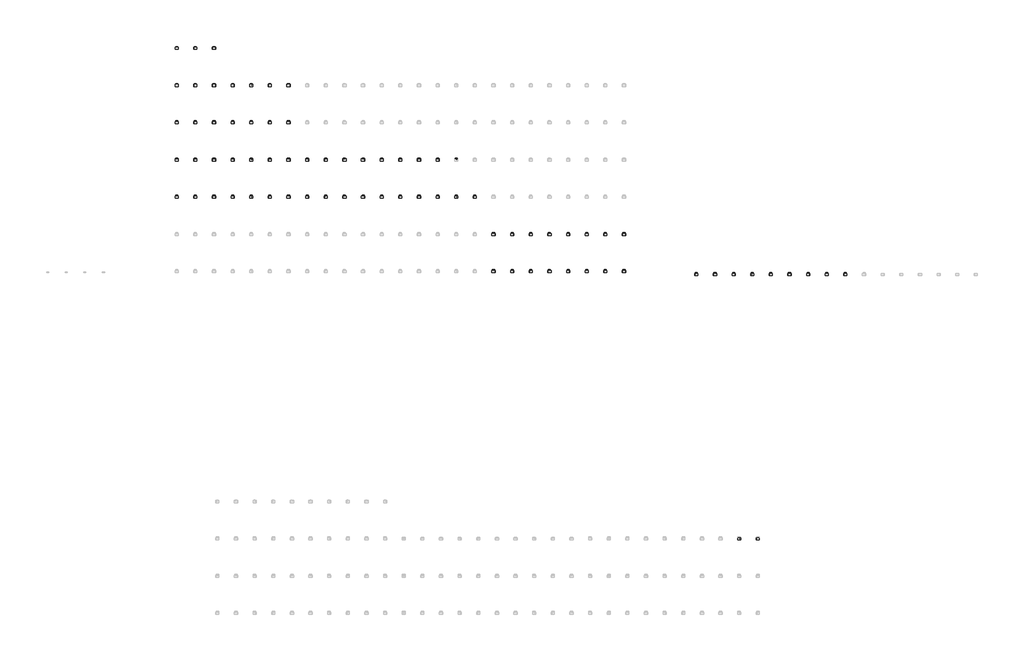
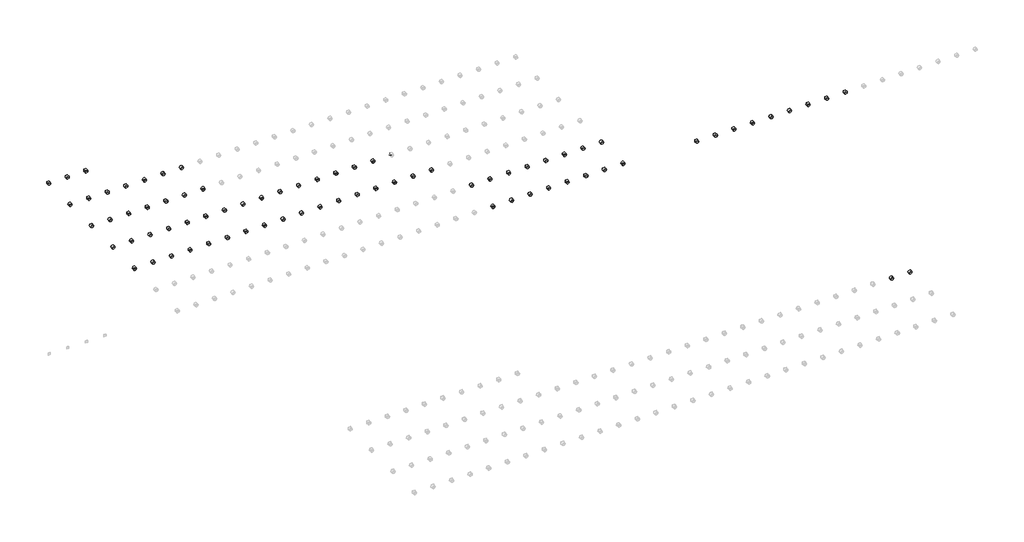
# One storey, part 6 of 18: 76 cable carrier fittings, 75 proxies.
"""IFC4 building model written with IfcOpenShell, lengths in millimetres."""

from ifc_helpers import new_model, si_unit, origin, place, context, project, spatial, transform, mapped, element, save
from components import electrical_fixtures_0646ccb8, electrical_fixtures_40101430, electrical_fixtures_18ec57b5, electrical_fixtures_af1ea3f6, electrical_fixtures_23d46810, electrical_fixtures_6e65c7f1, electrical_fixtures_4662bf55, cable_carrier_fitting_a64d4eba

model = new_model("IFC4")

# Units and contexts
model_context = context("Model", 3, world=origin())
ifc_project = project(units=[si_unit("LENGTHUNIT", "METRE", prefix="MILLI")], contexts=[model_context])

# Site, building, storey
site = spatial("IfcSite", under=ifc_project)
building = spatial("IfcBuilding", under=site)
storey = spatial("IfcBuildingStorey", under=building, Name="Этаж 01", Elevation=0.0)

# Proxies
placement = place(None, origin())
electrical_fixtures_shape = electrical_fixtures_0646ccb8(model_context)
element("IfcBuildingElementProxy", 1, Name="IEK_Skandy_Механизм выключателя : ВК1_SK-V14S", ObjectType="IEK_Skandy_Механизм выключателя : ВК1_SK-V14S", at=placement, inside=storey, context=model_context, shape_type="MappedRepresentation", body=[
    mapped(electrical_fixtures_shape, transform((24188.7290788, -8860.0, 0.0), x_axis=(1.0, 0.0, 0.0), y_axis=(0.0, 1.0, 0.0), z_axis=(0.0, 0.0, 1.0))),
])
element("IfcBuildingElementProxy", 2, Name="IEK_Skandy_Механизм выключателя : ВК1_SK-V14Sa", ObjectType="IEK_Skandy_Механизм выключателя : ВК1_SK-V14Sa", at=placement, inside=storey, context=model_context, shape_type="MappedRepresentation", body=[
    mapped(electrical_fixtures_shape, transform((24588.7290788, -8860.0, 0.0), x_axis=(1.0, 0.0, 0.0), y_axis=(0.0, 1.0, 0.0), z_axis=(0.0, 0.0, 1.0))),
])
element("IfcBuildingElementProxy", 3, Name="IEK_Skandy_Механизм выключателя : ВК1_SK-V14Sh", ObjectType="IEK_Skandy_Механизм выключателя : ВК1_SK-V14Sh", at=placement, inside=storey, context=model_context, shape_type="MappedRepresentation", body=[
    mapped(electrical_fixtures_shape, transform((24988.7290788, -8860.0, 0.0), x_axis=(1.0, 0.0, 0.0), y_axis=(0.0, 1.0, 0.0), z_axis=(0.0, 0.0, 1.0))),
])
element("IfcBuildingElementProxy", 4, Name="IEK_Skandy_Механизм выключателя : ВК1_SK-V14T", ObjectType="IEK_Skandy_Механизм выключателя : ВК1_SK-V14T", at=placement, inside=storey, context=model_context, shape_type="MappedRepresentation", body=[
    mapped(electrical_fixtures_shape, transform((25388.7290788, -8860.0, 0.0), x_axis=(1.0, 0.0, 0.0), y_axis=(0.0, 1.0, 0.0), z_axis=(0.0, 0.0, 1.0))),
])
element("IfcBuildingElementProxy", 5, Name="IEK_Skandy_Механизм выключателя : ВК1_SK-V14W", ObjectType="IEK_Skandy_Механизм выключателя : ВК1_SK-V14W", at=placement, inside=storey, context=model_context, shape_type="MappedRepresentation", body=[
    mapped(electrical_fixtures_shape, transform((25788.7290788, -8860.0, 0.0), x_axis=(1.0, 0.0, 0.0), y_axis=(0.0, 1.0, 0.0), z_axis=(0.0, 0.0, 1.0))),
])
element("IfcBuildingElementProxy", 6, Name="IEK_Skandy_Механизм выключателя : ВП1_SK-V03B", ObjectType="IEK_Skandy_Механизм выключателя : ВП1_SK-V03B", at=placement, inside=storey, context=model_context, shape_type="MappedRepresentation", body=[
    mapped(electrical_fixtures_shape, transform((26188.7290788, -8860.0, 0.0), x_axis=(1.0, 0.0, 0.0), y_axis=(0.0, 1.0, 0.0), z_axis=(0.0, 0.0, 1.0))),
])
element("IfcBuildingElementProxy", 7, Name="IEK_Skandy_Механизм выключателя : ВП1_SK-V03Bl", ObjectType="IEK_Skandy_Механизм выключателя : ВП1_SK-V03Bl", at=placement, inside=storey, context=model_context, shape_type="MappedRepresentation", body=[
    mapped(electrical_fixtures_shape, transform((26588.7290788, -8860.0, 0.0), x_axis=(1.0, 0.0, 0.0), y_axis=(0.0, 1.0, 0.0), z_axis=(0.0, 0.0, 1.0))),
])
element("IfcBuildingElementProxy", 8, Name="IEK_Skandy_Механизм выключателя : ВП1_SK-V03G", ObjectType="IEK_Skandy_Механизм выключателя : ВП1_SK-V03G", at=placement, inside=storey, context=model_context, shape_type="MappedRepresentation", body=[
    mapped(electrical_fixtures_shape, transform((26988.7290788, -8860.0, 0.0), x_axis=(1.0, 0.0, 0.0), y_axis=(0.0, 1.0, 0.0), z_axis=(0.0, 0.0, 1.0))),
])
element("IfcBuildingElementProxy", 9, Name="IEK_Skandy_Механизм выключателя : ВПр1_SK-V02T", ObjectType="IEK_Skandy_Механизм выключателя : ВПр1_SK-V02T", at=placement, inside=storey, context=model_context, shape_type="MappedRepresentation", body=[
    mapped(electrical_fixtures_shape, transform((24188.7290788, -8060.0, 0.0), x_axis=(1.0, 0.0, 0.0), y_axis=(0.0, 1.0, 0.0), z_axis=(0.0, 0.0, 1.0))),
])
element("IfcBuildingElementProxy", 10, Name="IEK_Skandy_Механизм выключателя : ВПр1_SK-V02W", ObjectType="IEK_Skandy_Механизм выключателя : ВПр1_SK-V02W", at=placement, inside=storey, context=model_context, shape_type="MappedRepresentation", body=[
    mapped(electrical_fixtures_shape, transform((24588.7290788, -8060.0, 0.0), x_axis=(1.0, 0.0, 0.0), y_axis=(0.0, 1.0, 0.0), z_axis=(0.0, 0.0, 1.0))),
])
electrical_fixtures_2_shape = electrical_fixtures_40101430(model_context)
element("IfcBuildingElementProxy", 11, Name="IEK_Skandy_Механизм выключателя : ВПр1 И_SK-V08B", ObjectType="IEK_Skandy_Механизм выключателя : ВПр1 И_SK-V08B", at=placement, inside=storey, context=model_context, shape_type="MappedRepresentation", body=[
    mapped(electrical_fixtures_2_shape, transform((24988.7290788, -8060.0, 0.0), x_axis=(1.0, 0.0, 0.0), y_axis=(0.0, 1.0, 0.0), z_axis=(0.0, 0.0, 1.0))),
])
element("IfcBuildingElementProxy", 12, Name="IEK_Skandy_Механизм выключателя : ВПр1 И_SK-V08Bl", ObjectType="IEK_Skandy_Механизм выключателя : ВПр1 И_SK-V08Bl", at=placement, inside=storey, context=model_context, shape_type="MappedRepresentation", body=[
    mapped(electrical_fixtures_2_shape, transform((25388.7290788, -8060.0, 0.0), x_axis=(1.0, 0.0, 0.0), y_axis=(0.0, 1.0, 0.0), z_axis=(0.0, 0.0, 1.0))),
])
element("IfcBuildingElementProxy", 13, Name="IEK_Skandy_Механизм выключателя : ВПр1 И_SK-V08G", ObjectType="IEK_Skandy_Механизм выключателя : ВПр1 И_SK-V08G", at=placement, inside=storey, context=model_context, shape_type="MappedRepresentation", body=[
    mapped(electrical_fixtures_2_shape, transform((25788.7290788, -8060.0, 0.0), x_axis=(1.0, 0.0, 0.0), y_axis=(0.0, 1.0, 0.0), z_axis=(0.0, 0.0, 1.0))),
])
element("IfcBuildingElementProxy", 14, Name="IEK_Skandy_Механизм выключателя : ВПр1 И_SK-V08Gr", ObjectType="IEK_Skandy_Механизм выключателя : ВПр1 И_SK-V08Gr", at=placement, inside=storey, context=model_context, shape_type="MappedRepresentation", body=[
    mapped(electrical_fixtures_2_shape, transform((26188.7290788, -8060.0, 0.0), x_axis=(1.0, 0.0, 0.0), y_axis=(0.0, 1.0, 0.0), z_axis=(0.0, 0.0, 1.0))),
])
element("IfcBuildingElementProxy", 15, Name="IEK_Skandy_Механизм выключателя : ВПр1 И_SK-V08M", ObjectType="IEK_Skandy_Механизм выключателя : ВПр1 И_SK-V08M", at=placement, inside=storey, context=model_context, shape_type="MappedRepresentation", body=[
    mapped(electrical_fixtures_2_shape, transform((26588.7290788, -8060.0, 0.0), x_axis=(1.0, 0.0, 0.0), y_axis=(0.0, 1.0, 0.0), z_axis=(0.0, 0.0, 1.0))),
])
element("IfcBuildingElementProxy", 16, Name="IEK_Skandy_Механизм выключателя : ВПр1 И_SK-V08N", ObjectType="IEK_Skandy_Механизм выключателя : ВПр1 И_SK-V08N", at=placement, inside=storey, context=model_context, shape_type="MappedRepresentation", body=[
    mapped(electrical_fixtures_2_shape, transform((26988.7290788, -8060.0, 0.0), x_axis=(1.0, 0.0, 0.0), y_axis=(0.0, 1.0, 0.0), z_axis=(0.0, 0.0, 1.0))),
])
element("IfcBuildingElementProxy", 17, Name="IEK_Skandy_Механизм выключателя : ВПр1 И_SK-V08S", ObjectType="IEK_Skandy_Механизм выключателя : ВПр1 И_SK-V08S", at=placement, inside=storey, context=model_context, shape_type="MappedRepresentation", body=[
    mapped(electrical_fixtures_2_shape, transform((17388.7290788, -7260.0, 0.0), x_axis=(1.0, 0.0, 0.0), y_axis=(0.0, 1.0, 0.0), z_axis=(0.0, 0.0, 1.0))),
])
element("IfcBuildingElementProxy", 18, Name="IEK_Skandy_Механизм выключателя : ВПр1 И_SK-V08Sa", ObjectType="IEK_Skandy_Механизм выключателя : ВПр1 И_SK-V08Sa", at=placement, inside=storey, context=model_context, shape_type="MappedRepresentation", body=[
    mapped(electrical_fixtures_2_shape, transform((17788.7290788, -7260.0, 0.0), x_axis=(1.0, 0.0, 0.0), y_axis=(0.0, 1.0, 0.0), z_axis=(0.0, 0.0, 1.0))),
])
element("IfcBuildingElementProxy", 19, Name="IEK_Skandy_Механизм выключателя : ВПр1 И_SK-V08Sh", ObjectType="IEK_Skandy_Механизм выключателя : ВПр1 И_SK-V08Sh", at=placement, inside=storey, context=model_context, shape_type="MappedRepresentation", body=[
    mapped(electrical_fixtures_2_shape, transform((18188.7290788, -7260.0, 0.0), x_axis=(1.0, 0.0, 0.0), y_axis=(0.0, 1.0, 0.0), z_axis=(0.0, 0.0, 1.0))),
])
element("IfcBuildingElementProxy", 20, Name="IEK_Skandy_Механизм выключателя : ВПр1 И_SK-V08T", ObjectType="IEK_Skandy_Механизм выключателя : ВПр1 И_SK-V08T", at=placement, inside=storey, context=model_context, shape_type="MappedRepresentation", body=[
    mapped(electrical_fixtures_2_shape, transform((18588.7290788, -7260.0, 0.0), x_axis=(1.0, 0.0, 0.0), y_axis=(0.0, 1.0, 0.0), z_axis=(0.0, 0.0, 1.0))),
])
element("IfcBuildingElementProxy", 21, Name="IEK_Skandy_Механизм выключателя : ВПр1 И_SK-V08W", ObjectType="IEK_Skandy_Механизм выключателя : ВПр1 И_SK-V08W", at=placement, inside=storey, context=model_context, shape_type="MappedRepresentation", body=[
    mapped(electrical_fixtures_2_shape, transform((18988.7290788, -7260.0, 0.0), x_axis=(1.0, 0.0, 0.0), y_axis=(0.0, 1.0, 0.0), z_axis=(0.0, 0.0, 1.0))),
])
element("IfcBuildingElementProxy", 22, Name="IEK_Skandy_Механизм выключателя : В1 И_SK-V07B", ObjectType="IEK_Skandy_Механизм выключателя : В1 И_SK-V07B", at=placement, inside=storey, context=model_context, shape_type="MappedRepresentation", body=[
    mapped(electrical_fixtures_2_shape, transform((19388.7290788, -7260.0, 0.0), x_axis=(1.0, 0.0, 0.0), y_axis=(0.0, 1.0, 0.0), z_axis=(0.0, 0.0, 1.0))),
])
element("IfcBuildingElementProxy", 23, Name="IEK_Skandy_Механизм выключателя : В1 И_SK-V07Bl", ObjectType="IEK_Skandy_Механизм выключателя : В1 И_SK-V07Bl", at=placement, inside=storey, context=model_context, shape_type="MappedRepresentation", body=[
    mapped(electrical_fixtures_2_shape, transform((19788.7290788, -7260.0, 0.0), x_axis=(1.0, 0.0, 0.0), y_axis=(0.0, 1.0, 0.0), z_axis=(0.0, 0.0, 1.0))),
])
element("IfcBuildingElementProxy", 24, Name="IEK_Skandy_Механизм выключателя : В1 И_SK-V07G", ObjectType="IEK_Skandy_Механизм выключателя : В1 И_SK-V07G", at=placement, inside=storey, context=model_context, shape_type="MappedRepresentation", body=[
    mapped(electrical_fixtures_2_shape, transform((20188.7290788, -7260.0, 0.0), x_axis=(1.0, 0.0, 0.0), y_axis=(0.0, 1.0, 0.0), z_axis=(0.0, 0.0, 1.0))),
])
element("IfcBuildingElementProxy", 25, Name="IEK_Skandy_Механизм выключателя : В1 И_SK-V07Gr", ObjectType="IEK_Skandy_Механизм выключателя : В1 И_SK-V07Gr", at=placement, inside=storey, context=model_context, shape_type="MappedRepresentation", body=[
    mapped(electrical_fixtures_2_shape, transform((20588.7290788, -7260.0, 0.0), x_axis=(1.0, 0.0, 0.0), y_axis=(0.0, 1.0, 0.0), z_axis=(0.0, 0.0, 1.0))),
])
element("IfcBuildingElementProxy", 26, Name="IEK_Skandy_Механизм выключателя : В1 И_SK-V07M", ObjectType="IEK_Skandy_Механизм выключателя : В1 И_SK-V07M", at=placement, inside=storey, context=model_context, shape_type="MappedRepresentation", body=[
    mapped(electrical_fixtures_2_shape, transform((20988.7290788, -7260.0, 0.0), x_axis=(1.0, 0.0, 0.0), y_axis=(0.0, 1.0, 0.0), z_axis=(0.0, 0.0, 1.0))),
])
element("IfcBuildingElementProxy", 27, Name="IEK_Skandy_Механизм выключателя : В1 И_SK-V07N", ObjectType="IEK_Skandy_Механизм выключателя : В1 И_SK-V07N", at=placement, inside=storey, context=model_context, shape_type="MappedRepresentation", body=[
    mapped(electrical_fixtures_2_shape, transform((21388.7290788, -7260.0, 0.0), x_axis=(1.0, 0.0, 0.0), y_axis=(0.0, 1.0, 0.0), z_axis=(0.0, 0.0, 1.0))),
])
element("IfcBuildingElementProxy", 28, Name="IEK_Skandy_Механизм выключателя : В1 И_SK-V07S", ObjectType="IEK_Skandy_Механизм выключателя : В1 И_SK-V07S", at=placement, inside=storey, context=model_context, shape_type="MappedRepresentation", body=[
    mapped(electrical_fixtures_2_shape, transform((21788.7290788, -7260.0, 0.0), x_axis=(1.0, 0.0, 0.0), y_axis=(0.0, 1.0, 0.0), z_axis=(0.0, 0.0, 1.0))),
])
element("IfcBuildingElementProxy", 29, Name="IEK_Skandy_Механизм выключателя : В1 И_SK-V07Sa", ObjectType="IEK_Skandy_Механизм выключателя : В1 И_SK-V07Sa", at=placement, inside=storey, context=model_context, shape_type="MappedRepresentation", body=[
    mapped(electrical_fixtures_2_shape, transform((22188.7290788, -7260.0, 0.0), x_axis=(1.0, 0.0, 0.0), y_axis=(0.0, 1.0, 0.0), z_axis=(0.0, 0.0, 1.0))),
])
element("IfcBuildingElementProxy", 30, Name="IEK_Skandy_Механизм выключателя : В1 И_SK-V07Sh", ObjectType="IEK_Skandy_Механизм выключателя : В1 И_SK-V07Sh", at=placement, inside=storey, context=model_context, shape_type="MappedRepresentation", body=[
    mapped(electrical_fixtures_2_shape, transform((22588.7290788, -7260.0, 0.0), x_axis=(1.0, 0.0, 0.0), y_axis=(0.0, 1.0, 0.0), z_axis=(0.0, 0.0, 1.0))),
])
element("IfcBuildingElementProxy", 31, Name="IEK_Skandy_Механизм выключателя : В1 И_SK-V07T", ObjectType="IEK_Skandy_Механизм выключателя : В1 И_SK-V07T", at=placement, inside=storey, context=model_context, shape_type="MappedRepresentation", body=[
    mapped(electrical_fixtures_2_shape, transform((22988.7290788, -7260.0, 0.0), x_axis=(1.0, 0.0, 0.0), y_axis=(0.0, 1.0, 0.0), z_axis=(0.0, 0.0, 1.0))),
])
element("IfcBuildingElementProxy", 32, Name="IEK_Skandy_Механизм выключателя : В1 И_SK-V07W", ObjectType="IEK_Skandy_Механизм выключателя : В1 И_SK-V07W", at=placement, inside=storey, context=model_context, shape_type="MappedRepresentation", body=[
    mapped(electrical_fixtures_2_shape, transform((23388.7290788, -7260.0, 0.0), x_axis=(1.0, 0.0, 0.0), y_axis=(0.0, 1.0, 0.0), z_axis=(0.0, 0.0, 1.0))),
])
electrical_fixtures_3_shape = electrical_fixtures_18ec57b5(model_context)
element("IfcBuildingElementProxy", 33, Name="IEK_Skandy_Механизм выключателя : В2_SK-V04B", ObjectType="IEK_Skandy_Механизм выключателя : В2_SK-V04B", at=placement, inside=storey, context=model_context, shape_type="MappedRepresentation", body=[
    mapped(electrical_fixtures_3_shape, transform((23788.7290788, -7260.0, 0.0), x_axis=(1.0, 0.0, 0.0), y_axis=(0.0, 1.0, 0.0), z_axis=(0.0, 0.0, 1.0))),
])
element("IfcBuildingElementProxy", 34, Name="IEK_Skandy_Механизм выключателя : В2_SK-V04T", ObjectType="IEK_Skandy_Механизм выключателя : В2_SK-V04T", at=placement, inside=storey, context=model_context, shape_type="MappedRepresentation", body=[
    mapped(electrical_fixtures_3_shape, transform((17388.7290788, -6460.0, 0.0), x_axis=(1.0, 0.0, 0.0), y_axis=(0.0, 1.0, 0.0), z_axis=(0.0, 0.0, 1.0))),
])
element("IfcBuildingElementProxy", 35, Name="IEK_Skandy_Механизм выключателя : В2_SK-V04W", ObjectType="IEK_Skandy_Механизм выключателя : В2_SK-V04W", at=placement, inside=storey, context=model_context, shape_type="MappedRepresentation", body=[
    mapped(electrical_fixtures_3_shape, transform((17788.7290788, -6460.0, 0.0), x_axis=(1.0, 0.0, 0.0), y_axis=(0.0, 1.0, 0.0), z_axis=(0.0, 0.0, 1.0))),
])
element("IfcBuildingElementProxy", 36, Name="IEK_Skandy_Механизм выключателя : ВП2_SK-V06B", ObjectType="IEK_Skandy_Механизм выключателя : ВП2_SK-V06B", at=placement, inside=storey, context=model_context, shape_type="MappedRepresentation", body=[
    mapped(electrical_fixtures_3_shape, transform((18188.7290788, -6460.0, 0.0), x_axis=(1.0, 0.0, 0.0), y_axis=(0.0, 1.0, 0.0), z_axis=(0.0, 0.0, 1.0))),
])
element("IfcBuildingElementProxy", 37, Name="IEK_Skandy_Механизм выключателя : ВП2_SK-V06Bl", ObjectType="IEK_Skandy_Механизм выключателя : ВП2_SK-V06Bl", at=placement, inside=storey, context=model_context, shape_type="MappedRepresentation", body=[
    mapped(electrical_fixtures_3_shape, transform((18588.7290788, -6460.0, 0.0), x_axis=(1.0, 0.0, 0.0), y_axis=(0.0, 1.0, 0.0), z_axis=(0.0, 0.0, 1.0))),
])
element("IfcBuildingElementProxy", 38, Name="IEK_Skandy_Механизм выключателя : ВП2_SK-V06G", ObjectType="IEK_Skandy_Механизм выключателя : ВП2_SK-V06G", at=placement, inside=storey, context=model_context, shape_type="MappedRepresentation", body=[
    mapped(electrical_fixtures_3_shape, transform((18988.7290788, -6460.0, 0.0), x_axis=(1.0, 0.0, 0.0), y_axis=(0.0, 1.0, 0.0), z_axis=(0.0, 0.0, 1.0))),
])
element("IfcBuildingElementProxy", 39, Name="IEK_Skandy_Механизм выключателя : ВП2_SK-V06Gr", ObjectType="IEK_Skandy_Механизм выключателя : ВП2_SK-V06Gr", at=placement, inside=storey, context=model_context, shape_type="MappedRepresentation", body=[
    mapped(electrical_fixtures_3_shape, transform((19388.7290788, -6460.0, 0.0), x_axis=(1.0, 0.0, 0.0), y_axis=(0.0, 1.0, 0.0), z_axis=(0.0, 0.0, 1.0))),
])
element("IfcBuildingElementProxy", 40, Name="IEK_Skandy_Механизм выключателя : ВП2_SK-V06M", ObjectType="IEK_Skandy_Механизм выключателя : ВП2_SK-V06M", at=placement, inside=storey, context=model_context, shape_type="MappedRepresentation", body=[
    mapped(electrical_fixtures_3_shape, transform((19788.7290788, -6460.0, 0.0), x_axis=(1.0, 0.0, 0.0), y_axis=(0.0, 1.0, 0.0), z_axis=(0.0, 0.0, 1.0))),
])
element("IfcBuildingElementProxy", 41, Name="IEK_Skandy_Механизм выключателя : ВП2_SK-V06N", ObjectType="IEK_Skandy_Механизм выключателя : ВП2_SK-V06N", at=placement, inside=storey, context=model_context, shape_type="MappedRepresentation", body=[
    mapped(electrical_fixtures_3_shape, transform((20188.7290788, -6460.0, 0.0), x_axis=(1.0, 0.0, 0.0), y_axis=(0.0, 1.0, 0.0), z_axis=(0.0, 0.0, 1.0))),
])
element("IfcBuildingElementProxy", 42, Name="IEK_Skandy_Механизм выключателя : ВП2_SK-V06S", ObjectType="IEK_Skandy_Механизм выключателя : ВП2_SK-V06S", at=placement, inside=storey, context=model_context, shape_type="MappedRepresentation", body=[
    mapped(electrical_fixtures_3_shape, transform((20588.7290788, -6460.0, 0.0), x_axis=(1.0, 0.0, 0.0), y_axis=(0.0, 1.0, 0.0), z_axis=(0.0, 0.0, 1.0))),
])
element("IfcBuildingElementProxy", 43, Name="IEK_Skandy_Механизм выключателя : ВП2_SK-V06Sa", ObjectType="IEK_Skandy_Механизм выключателя : ВП2_SK-V06Sa", at=placement, inside=storey, context=model_context, shape_type="MappedRepresentation", body=[
    mapped(electrical_fixtures_3_shape, transform((20988.7290788, -6460.0, 0.0), x_axis=(1.0, 0.0, 0.0), y_axis=(0.0, 1.0, 0.0), z_axis=(0.0, 0.0, 1.0))),
])
element("IfcBuildingElementProxy", 44, Name="IEK_Skandy_Механизм выключателя : ВП2_SK-V06Sh", ObjectType="IEK_Skandy_Механизм выключателя : ВП2_SK-V06Sh", at=placement, inside=storey, context=model_context, shape_type="MappedRepresentation", body=[
    mapped(electrical_fixtures_3_shape, transform((21388.7290788, -6460.0, 0.0), x_axis=(1.0, 0.0, 0.0), y_axis=(0.0, 1.0, 0.0), z_axis=(0.0, 0.0, 1.0))),
])
element("IfcBuildingElementProxy", 45, Name="IEK_Skandy_Механизм выключателя : ВП2_SK-V06T", ObjectType="IEK_Skandy_Механизм выключателя : ВП2_SK-V06T", at=placement, inside=storey, context=model_context, shape_type="MappedRepresentation", body=[
    mapped(electrical_fixtures_3_shape, transform((21788.7290788, -6460.0, 0.0), x_axis=(1.0, 0.0, 0.0), y_axis=(0.0, 1.0, 0.0), z_axis=(0.0, 0.0, 1.0))),
])
element("IfcBuildingElementProxy", 46, Name="IEK_Skandy_Механизм выключателя : ВП2_SK-V06W", ObjectType="IEK_Skandy_Механизм выключателя : ВП2_SK-V06W", at=placement, inside=storey, context=model_context, shape_type="MappedRepresentation", body=[
    mapped(electrical_fixtures_3_shape, transform((22188.7290788, -6460.0, 0.0), x_axis=(1.0, 0.0, 0.0), y_axis=(0.0, 1.0, 0.0), z_axis=(0.0, 0.0, 1.0))),
])
element("IfcBuildingElementProxy", 47, Name="IEK_Skandy_Механизм выключателя : ВПр2_SK-V05B", ObjectType="IEK_Skandy_Механизм выключателя : ВПр2_SK-V05B", at=placement, inside=storey, context=model_context, shape_type="MappedRepresentation", body=[
    mapped(electrical_fixtures_3_shape, transform((22588.7290788, -6460.0, 0.0), x_axis=(1.0, 0.0, 0.0), y_axis=(0.0, 1.0, 0.0), z_axis=(0.0, 0.0, 1.0))),
])
element("IfcBuildingElementProxy", 48, Name="IEK_Skandy_Механизм выключателя : ВПр2_SK-V05Bl", ObjectType="IEK_Skandy_Механизм выключателя : ВПр2_SK-V05Bl", at=placement, inside=storey, context=model_context, shape_type="MappedRepresentation", body=[
    mapped(electrical_fixtures_3_shape, transform((22988.7290788, -6460.0, 0.0), x_axis=(1.0, 0.0, 0.0), y_axis=(0.0, 1.0, 0.0), z_axis=(0.0, 0.0, 1.0))),
])
element("IfcBuildingElementProxy", 49, Name="IEK_Skandy_Механизм выключателя : ВПр2_SK-V05G", ObjectType="IEK_Skandy_Механизм выключателя : ВПр2_SK-V05G", at=placement, inside=storey, context=model_context, shape_type="MappedRepresentation", body=[
    mapped(electrical_fixtures_3_shape, transform((23388.7290788, -6460.0, 0.0), x_axis=(1.0, 0.0, 0.0), y_axis=(0.0, 1.0, 0.0), z_axis=(0.0, 0.0, 1.0))),
])
electrical_fixtures_4_shape = electrical_fixtures_af1ea3f6(model_context)
element("IfcBuildingElementProxy", 50, Name="IEK_Skandy_Механизм выключателя : ВПр2 И_SK-V10Bl", ObjectType="IEK_Skandy_Механизм выключателя : ВПр2 И_SK-V10Bl", at=placement, inside=storey, context=model_context, shape_type="MappedRepresentation", body=[
    mapped(electrical_fixtures_4_shape, transform((17388.7290788, -5660.0, 0.0), x_axis=(1.0, 0.0, 0.0), y_axis=(0.0, 1.0, 0.0), z_axis=(0.0, 0.0, 1.0))),
])
element("IfcBuildingElementProxy", 51, Name="IEK_Skandy_Механизм выключателя : ВПр2 И_SK-V10G", ObjectType="IEK_Skandy_Механизм выключателя : ВПр2 И_SK-V10G", at=placement, inside=storey, context=model_context, shape_type="MappedRepresentation", body=[
    mapped(electrical_fixtures_4_shape, transform((17788.7290788, -5660.0, 0.0), x_axis=(1.0, 0.0, 0.0), y_axis=(0.0, 1.0, 0.0), z_axis=(0.0, 0.0, 1.0))),
])
element("IfcBuildingElementProxy", 52, Name="IEK_Skandy_Механизм выключателя : ВПр2 И_SK-V10Gr", ObjectType="IEK_Skandy_Механизм выключателя : ВПр2 И_SK-V10Gr", at=placement, inside=storey, context=model_context, shape_type="MappedRepresentation", body=[
    mapped(electrical_fixtures_4_shape, transform((18188.7290788, -5660.0, 0.0), x_axis=(1.0, 0.0, 0.0), y_axis=(0.0, 1.0, 0.0), z_axis=(0.0, 0.0, 1.0))),
])
element("IfcBuildingElementProxy", 53, Name="IEK_Skandy_Механизм выключателя : ВПр2 И_SK-V10M", ObjectType="IEK_Skandy_Механизм выключателя : ВПр2 И_SK-V10M", at=placement, inside=storey, context=model_context, shape_type="MappedRepresentation", body=[
    mapped(electrical_fixtures_4_shape, transform((18588.7290788, -5660.0, 0.0), x_axis=(1.0, 0.0, 0.0), y_axis=(0.0, 1.0, 0.0), z_axis=(0.0, 0.0, 1.0))),
])
element("IfcBuildingElementProxy", 54, Name="IEK_Skandy_Механизм выключателя : ВПр2 И_SK-V10N", ObjectType="IEK_Skandy_Механизм выключателя : ВПр2 И_SK-V10N", at=placement, inside=storey, context=model_context, shape_type="MappedRepresentation", body=[
    mapped(electrical_fixtures_4_shape, transform((18988.7290788, -5660.0, 0.0), x_axis=(1.0, 0.0, 0.0), y_axis=(0.0, 1.0, 0.0), z_axis=(0.0, 0.0, 1.0))),
])
element("IfcBuildingElementProxy", 55, Name="IEK_Skandy_Механизм выключателя : ВПр2 И_SK-V10S", ObjectType="IEK_Skandy_Механизм выключателя : ВПр2 И_SK-V10S", at=placement, inside=storey, context=model_context, shape_type="MappedRepresentation", body=[
    mapped(electrical_fixtures_4_shape, transform((19388.7290788, -5660.0, 0.0), x_axis=(1.0, 0.0, 0.0), y_axis=(0.0, 1.0, 0.0), z_axis=(0.0, 0.0, 1.0))),
])
element("IfcBuildingElementProxy", 56, Name="IEK_Skandy_Механизм выключателя : ВПр2 И_SK-V10Sa", ObjectType="IEK_Skandy_Механизм выключателя : ВПр2 И_SK-V10Sa", at=placement, inside=storey, context=model_context, shape_type="MappedRepresentation", body=[
    mapped(electrical_fixtures_4_shape, transform((19788.7290788, -5660.0, 0.0), x_axis=(1.0, 0.0, 0.0), y_axis=(0.0, 1.0, 0.0), z_axis=(0.0, 0.0, 1.0))),
])
electrical_fixtures_5_shape = electrical_fixtures_23d46810(model_context)
element("IfcBuildingElementProxy", 57, Name="IEK_Skandy_Механизм выключателя : В3_SK-V11M", ObjectType="IEK_Skandy_Механизм выключателя : В3_SK-V11M", at=placement, inside=storey, context=model_context, shape_type="MappedRepresentation", body=[
    mapped(electrical_fixtures_5_shape, transform((17388.7290788, -4860.0, 0.0), x_axis=(1.0, 0.0, 0.0), y_axis=(0.0, 1.0, 0.0), z_axis=(0.0, 0.0, 1.0))),
])
element("IfcBuildingElementProxy", 58, Name="IEK_Skandy_Механизм выключателя : В3_SK-V11N", ObjectType="IEK_Skandy_Механизм выключателя : В3_SK-V11N", at=placement, inside=storey, context=model_context, shape_type="MappedRepresentation", body=[
    mapped(electrical_fixtures_5_shape, transform((17788.7290788, -4860.0, 0.0), x_axis=(1.0, 0.0, 0.0), y_axis=(0.0, 1.0, 0.0), z_axis=(0.0, 0.0, 1.0))),
])
element("IfcBuildingElementProxy", 59, Name="IEK_Skandy_Механизм выключателя : В3_SK-V11S", ObjectType="IEK_Skandy_Механизм выключателя : В3_SK-V11S", at=placement, inside=storey, context=model_context, shape_type="MappedRepresentation", body=[
    mapped(electrical_fixtures_5_shape, transform((18188.7290788, -4860.0, 0.0), x_axis=(1.0, 0.0, 0.0), y_axis=(0.0, 1.0, 0.0), z_axis=(0.0, 0.0, 1.0))),
])
element("IfcBuildingElementProxy", 60, Name="IEK_Skandy_Механизм выключателя : В3_SK-V11Sa", ObjectType="IEK_Skandy_Механизм выключателя : В3_SK-V11Sa", at=placement, inside=storey, context=model_context, shape_type="MappedRepresentation", body=[
    mapped(electrical_fixtures_5_shape, transform((18588.7290788, -4860.0, 0.0), x_axis=(1.0, 0.0, 0.0), y_axis=(0.0, 1.0, 0.0), z_axis=(0.0, 0.0, 1.0))),
])
element("IfcBuildingElementProxy", 61, Name="IEK_Skandy_Механизм выключателя : В3_SK-V11Sh", ObjectType="IEK_Skandy_Механизм выключателя : В3_SK-V11Sh", at=placement, inside=storey, context=model_context, shape_type="MappedRepresentation", body=[
    mapped(electrical_fixtures_5_shape, transform((18988.7290788, -4860.0, 0.0), x_axis=(1.0, 0.0, 0.0), y_axis=(0.0, 1.0, 0.0), z_axis=(0.0, 0.0, 1.0))),
])
element("IfcBuildingElementProxy", 62, Name="IEK_Skandy_Механизм выключателя : В3_SK-V11T", ObjectType="IEK_Skandy_Механизм выключателя : В3_SK-V11T", at=placement, inside=storey, context=model_context, shape_type="MappedRepresentation", body=[
    mapped(electrical_fixtures_5_shape, transform((19388.7290788, -4860.0, 0.0), x_axis=(1.0, 0.0, 0.0), y_axis=(0.0, 1.0, 0.0), z_axis=(0.0, 0.0, 1.0))),
])
element("IfcBuildingElementProxy", 63, Name="IEK_Skandy_Механизм выключателя : В3_SK-V11W", ObjectType="IEK_Skandy_Механизм выключателя : В3_SK-V11W", at=placement, inside=storey, context=model_context, shape_type="MappedRepresentation", body=[
    mapped(electrical_fixtures_5_shape, transform((19788.7290788, -4860.0, 0.0), x_axis=(1.0, 0.0, 0.0), y_axis=(0.0, 1.0, 0.0), z_axis=(0.0, 0.0, 1.0))),
])
electrical_fixtures_6_shape = electrical_fixtures_6e65c7f1(model_context)
element("IfcBuildingElementProxy", 64, Name="IEK_Skandy_Механизм выключателя : ДД_SK-S01Sh", ObjectType="IEK_Skandy_Механизм выключателя : ДД_SK-S01Sh", at=placement, inside=storey, context=model_context, shape_type="MappedRepresentation", body=[
    mapped(electrical_fixtures_6_shape, transform((17388.7290788, -4060.0, 0.0), x_axis=(1.0, 0.0, 0.0), y_axis=(0.0, 1.0, 0.0), z_axis=(0.0, 0.0, 1.0))),
])
element("IfcBuildingElementProxy", 65, Name="IEK_Skandy_Механизм выключателя : ДД_SK-S01T", ObjectType="IEK_Skandy_Механизм выключателя : ДД_SK-S01T", at=placement, inside=storey, context=model_context, shape_type="MappedRepresentation", body=[
    mapped(electrical_fixtures_6_shape, transform((17788.7290788, -4060.0, 0.0), x_axis=(1.0, 0.0, 0.0), y_axis=(0.0, 1.0, 0.0), z_axis=(0.0, 0.0, 1.0))),
])
element("IfcBuildingElementProxy", 66, Name="IEK_Skandy_Механизм выключателя : ДД_SK-S01W", ObjectType="IEK_Skandy_Механизм выключателя : ДД_SK-S01W", at=placement, inside=storey, context=model_context, shape_type="MappedRepresentation", body=[
    mapped(electrical_fixtures_6_shape, transform((18188.7290788, -4060.0, 0.0), x_axis=(1.0, 0.0, 0.0), y_axis=(0.0, 1.0, 0.0), z_axis=(0.0, 0.0, 1.0))),
])
electrical_fixtures_7_shape = electrical_fixtures_4662bf55(model_context)
element("IfcBuildingElementProxy", 67, Name="IEK_Skandy_Механизм подсветки, вывод кабеля : ВК_SK-O01B", ObjectType="IEK_Skandy_Механизм подсветки, вывод кабеля : ВК_SK-O01B", at=placement, inside=storey, context=model_context, shape_type="MappedRepresentation", body=[
    mapped(electrical_fixtures_7_shape, transform((28541.0593058, -8925.0, 0.0), x_axis=(1.0, 0.0, 0.0), y_axis=(0.0, 1.0, 0.0), z_axis=(0.0, 0.0, 1.0))),
])
element("IfcBuildingElementProxy", 68, Name="IEK_Skandy_Механизм подсветки, вывод кабеля : ВК_SK-O01Bl", ObjectType="IEK_Skandy_Механизм подсветки, вывод кабеля : ВК_SK-O01Bl", at=placement, inside=storey, context=model_context, shape_type="MappedRepresentation", body=[
    mapped(electrical_fixtures_7_shape, transform((28941.0593058, -8925.0, 0.0), x_axis=(1.0, 0.0, 0.0), y_axis=(0.0, 1.0, 0.0), z_axis=(0.0, 0.0, 1.0))),
])
element("IfcBuildingElementProxy", 69, Name="IEK_Skandy_Механизм подсветки, вывод кабеля : ВК_SK-O01G", ObjectType="IEK_Skandy_Механизм подсветки, вывод кабеля : ВК_SK-O01G", at=placement, inside=storey, context=model_context, shape_type="MappedRepresentation", body=[
    mapped(electrical_fixtures_7_shape, transform((29341.0593058, -8925.0, 0.0), x_axis=(1.0, 0.0, 0.0), y_axis=(0.0, 1.0, 0.0), z_axis=(0.0, 0.0, 1.0))),
])
element("IfcBuildingElementProxy", 70, Name="IEK_Skandy_Механизм подсветки, вывод кабеля : ВК_SK-O01Gr", ObjectType="IEK_Skandy_Механизм подсветки, вывод кабеля : ВК_SK-O01Gr", at=placement, inside=storey, context=model_context, shape_type="MappedRepresentation", body=[
    mapped(electrical_fixtures_7_shape, transform((29741.0593058, -8925.0, 0.0), x_axis=(1.0, 0.0, 0.0), y_axis=(0.0, 1.0, 0.0), z_axis=(0.0, 0.0, 1.0))),
])
element("IfcBuildingElementProxy", 71, Name="IEK_Skandy_Механизм подсветки, вывод кабеля : ВК_SK-O01M", ObjectType="IEK_Skandy_Механизм подсветки, вывод кабеля : ВК_SK-O01M", at=placement, inside=storey, context=model_context, shape_type="MappedRepresentation", body=[
    mapped(electrical_fixtures_7_shape, transform((30141.0593058, -8925.0, 0.0), x_axis=(1.0, 0.0, 0.0), y_axis=(0.0, 1.0, 0.0), z_axis=(0.0, 0.0, 1.0))),
])
element("IfcBuildingElementProxy", 72, Name="IEK_Skandy_Механизм подсветки, вывод кабеля : ВК_SK-O01N", ObjectType="IEK_Skandy_Механизм подсветки, вывод кабеля : ВК_SK-O01N", at=placement, inside=storey, context=model_context, shape_type="MappedRepresentation", body=[
    mapped(electrical_fixtures_7_shape, transform((30541.0593058, -8925.0, 0.0), x_axis=(1.0, 0.0, 0.0), y_axis=(0.0, 1.0, 0.0), z_axis=(0.0, 0.0, 1.0))),
])
element("IfcBuildingElementProxy", 73, Name="IEK_Skandy_Механизм подсветки, вывод кабеля : ВК_SK-O01S", ObjectType="IEK_Skandy_Механизм подсветки, вывод кабеля : ВК_SK-O01S", at=placement, inside=storey, context=model_context, shape_type="MappedRepresentation", body=[
    mapped(electrical_fixtures_7_shape, transform((30941.0593058, -8925.0, 0.0), x_axis=(1.0, 0.0, 0.0), y_axis=(0.0, 1.0, 0.0), z_axis=(0.0, 0.0, 1.0))),
])
element("IfcBuildingElementProxy", 74, Name="IEK_Skandy_Механизм подсветки, вывод кабеля : ВК_SK-O01Sa", ObjectType="IEK_Skandy_Механизм подсветки, вывод кабеля : ВК_SK-O01Sa", at=placement, inside=storey, context=model_context, shape_type="MappedRepresentation", body=[
    mapped(electrical_fixtures_7_shape, transform((31341.0593058, -8925.0, 0.0), x_axis=(1.0, 0.0, 0.0), y_axis=(0.0, 1.0, 0.0), z_axis=(0.0, 0.0, 1.0))),
])
element("IfcBuildingElementProxy", 75, Name="IEK_Skandy_Механизм подсветки, вывод кабеля : ВК_SK-O01Sh", ObjectType="IEK_Skandy_Механизм подсветки, вывод кабеля : ВК_SK-O01Sh", at=placement, inside=storey, context=model_context, shape_type="MappedRepresentation", body=[
    mapped(electrical_fixtures_7_shape, transform((31741.0593058, -8925.0, 0.0), x_axis=(1.0, 0.0, 0.0), y_axis=(0.0, 1.0, 0.0), z_axis=(0.0, 0.0, 1.0))),
])

# Cable carrier fittings
cable_carrier_fitting_shape = cable_carrier_fitting_a64d4eba(model_context)
element("IfcCableCarrierFitting", 76, ObjectType="IEK_Коробка монтажная : стены_полые", at=placement, inside=storey, context=model_context, shape_type="MappedRepresentation", body=[
    mapped(cable_carrier_fitting_shape, transform((29461.6818904, -14600.0, 0.0), x_axis=(1.0, 0.0, 0.0), y_axis=(0.0, 1.0, 0.0), z_axis=(0.0, 0.0, 1.0))),
])
element("IfcCableCarrierFitting", 77, ObjectType="IEK_Коробка монтажная : стены_полые", at=placement, inside=storey, context=model_context, shape_type="MappedRepresentation", body=[
    mapped(cable_carrier_fitting_shape, transform((29861.6818904, -14600.0, 0.0), x_axis=(1.0, 0.0, 0.0), y_axis=(0.0, 1.0, 0.0), z_axis=(0.0, 0.0, 1.0))),
])
element("IfcCableCarrierFitting", 78, ObjectType="IEK_Коробка монтажная : стены_полые", at=placement, inside=storey, context=model_context, shape_type="MappedRepresentation", body=[
    mapped(cable_carrier_fitting_shape, transform((24188.7290788, -8860.0, 0.0), x_axis=(1.0, 0.0, 0.0), y_axis=(0.0, 1.0, 0.0), z_axis=(0.0, 0.0, 1.0))),
])
element("IfcCableCarrierFitting", 79, ObjectType="IEK_Коробка монтажная : стены_полые", at=placement, inside=storey, context=model_context, shape_type="MappedRepresentation", body=[
    mapped(cable_carrier_fitting_shape, transform((24588.7290788, -8860.0, 0.0), x_axis=(1.0, 0.0, 0.0), y_axis=(0.0, 1.0, 0.0), z_axis=(0.0, 0.0, 1.0))),
])
element("IfcCableCarrierFitting", 80, ObjectType="IEK_Коробка монтажная : стены_полые", at=placement, inside=storey, context=model_context, shape_type="MappedRepresentation", body=[
    mapped(cable_carrier_fitting_shape, transform((24988.7290788, -8860.0, 0.0), x_axis=(1.0, 0.0, 0.0), y_axis=(0.0, 1.0, 0.0), z_axis=(0.0, 0.0, 1.0))),
])
element("IfcCableCarrierFitting", 81, ObjectType="IEK_Коробка монтажная : стены_полые", at=placement, inside=storey, context=model_context, shape_type="MappedRepresentation", body=[
    mapped(cable_carrier_fitting_shape, transform((25388.7290788, -8860.0, 0.0), x_axis=(1.0, 0.0, 0.0), y_axis=(0.0, 1.0, 0.0), z_axis=(0.0, 0.0, 1.0))),
])
element("IfcCableCarrierFitting", 82, ObjectType="IEK_Коробка монтажная : стены_полые", at=placement, inside=storey, context=model_context, shape_type="MappedRepresentation", body=[
    mapped(cable_carrier_fitting_shape, transform((25788.7290788, -8860.0, 0.0), x_axis=(1.0, 0.0, 0.0), y_axis=(0.0, 1.0, 0.0), z_axis=(0.0, 0.0, 1.0))),
])
element("IfcCableCarrierFitting", 83, ObjectType="IEK_Коробка монтажная : стены_полые", at=placement, inside=storey, context=model_context, shape_type="MappedRepresentation", body=[
    mapped(cable_carrier_fitting_shape, transform((26188.7290788, -8860.0, 0.0), x_axis=(1.0, 0.0, 0.0), y_axis=(0.0, 1.0, 0.0), z_axis=(0.0, 0.0, 1.0))),
])
element("IfcCableCarrierFitting", 84, ObjectType="IEK_Коробка монтажная : стены_полые", at=placement, inside=storey, context=model_context, shape_type="MappedRepresentation", body=[
    mapped(cable_carrier_fitting_shape, transform((26588.7290788, -8860.0, 0.0), x_axis=(1.0, 0.0, 0.0), y_axis=(0.0, 1.0, 0.0), z_axis=(0.0, 0.0, 1.0))),
])
element("IfcCableCarrierFitting", 85, ObjectType="IEK_Коробка монтажная : стены_полые", at=placement, inside=storey, context=model_context, shape_type="MappedRepresentation", body=[
    mapped(cable_carrier_fitting_shape, transform((26988.7290788, -8860.0, 0.0), x_axis=(1.0, 0.0, 0.0), y_axis=(0.0, 1.0, 0.0), z_axis=(0.0, 0.0, 1.0))),
])
element("IfcCableCarrierFitting", 86, ObjectType="IEK_Коробка монтажная : стены_полые", at=placement, inside=storey, context=model_context, shape_type="MappedRepresentation", body=[
    mapped(cable_carrier_fitting_shape, transform((24188.7290788, -8060.0, 0.0), x_axis=(1.0, 0.0, 0.0), y_axis=(0.0, 1.0, 0.0), z_axis=(0.0, 0.0, 1.0))),
])
element("IfcCableCarrierFitting", 87, ObjectType="IEK_Коробка монтажная : стены_полые", at=placement, inside=storey, context=model_context, shape_type="MappedRepresentation", body=[
    mapped(cable_carrier_fitting_shape, transform((24588.7290788, -8060.0, 0.0), x_axis=(1.0, 0.0, 0.0), y_axis=(0.0, 1.0, 0.0), z_axis=(0.0, 0.0, 1.0))),
])
element("IfcCableCarrierFitting", 88, ObjectType="IEK_Коробка монтажная : стены_полые", at=placement, inside=storey, context=model_context, shape_type="MappedRepresentation", body=[
    mapped(cable_carrier_fitting_shape, transform((24988.7290788, -8060.0, 0.0), x_axis=(1.0, 0.0, 0.0), y_axis=(0.0, 1.0, 0.0), z_axis=(0.0, 0.0, 1.0))),
])
element("IfcCableCarrierFitting", 89, ObjectType="IEK_Коробка монтажная : стены_полые", at=placement, inside=storey, context=model_context, shape_type="MappedRepresentation", body=[
    mapped(cable_carrier_fitting_shape, transform((25388.7290788, -8060.0, 0.0), x_axis=(1.0, 0.0, 0.0), y_axis=(0.0, 1.0, 0.0), z_axis=(0.0, 0.0, 1.0))),
])
element("IfcCableCarrierFitting", 90, ObjectType="IEK_Коробка монтажная : стены_полые", at=placement, inside=storey, context=model_context, shape_type="MappedRepresentation", body=[
    mapped(cable_carrier_fitting_shape, transform((25788.7290788, -8060.0, 0.0), x_axis=(1.0, 0.0, 0.0), y_axis=(0.0, 1.0, 0.0), z_axis=(0.0, 0.0, 1.0))),
])
element("IfcCableCarrierFitting", 91, ObjectType="IEK_Коробка монтажная : стены_полые", at=placement, inside=storey, context=model_context, shape_type="MappedRepresentation", body=[
    mapped(cable_carrier_fitting_shape, transform((26188.7290788, -8060.0, 0.0), x_axis=(1.0, 0.0, 0.0), y_axis=(0.0, 1.0, 0.0), z_axis=(0.0, 0.0, 1.0))),
])
element("IfcCableCarrierFitting", 92, ObjectType="IEK_Коробка монтажная : стены_полые", at=placement, inside=storey, context=model_context, shape_type="MappedRepresentation", body=[
    mapped(cable_carrier_fitting_shape, transform((26588.7290788, -8060.0, 0.0), x_axis=(1.0, 0.0, 0.0), y_axis=(0.0, 1.0, 0.0), z_axis=(0.0, 0.0, 1.0))),
])
element("IfcCableCarrierFitting", 93, ObjectType="IEK_Коробка монтажная : стены_полые", at=placement, inside=storey, context=model_context, shape_type="MappedRepresentation", body=[
    mapped(cable_carrier_fitting_shape, transform((26988.7290788, -8060.0, 0.0), x_axis=(1.0, 0.0, 0.0), y_axis=(0.0, 1.0, 0.0), z_axis=(0.0, 0.0, 1.0))),
])
element("IfcCableCarrierFitting", 94, ObjectType="IEK_Коробка монтажная : стены_полые", at=placement, inside=storey, context=model_context, shape_type="MappedRepresentation", body=[
    mapped(cable_carrier_fitting_shape, transform((17388.7290788, -7260.0, 0.0), x_axis=(1.0, 0.0, 0.0), y_axis=(0.0, 1.0, 0.0), z_axis=(0.0, 0.0, 1.0))),
])
element("IfcCableCarrierFitting", 95, ObjectType="IEK_Коробка монтажная : стены_полые", at=placement, inside=storey, context=model_context, shape_type="MappedRepresentation", body=[
    mapped(cable_carrier_fitting_shape, transform((17788.7290788, -7260.0, 0.0), x_axis=(1.0, 0.0, 0.0), y_axis=(0.0, 1.0, 0.0), z_axis=(0.0, 0.0, 1.0))),
])
element("IfcCableCarrierFitting", 96, ObjectType="IEK_Коробка монтажная : стены_полые", at=placement, inside=storey, context=model_context, shape_type="MappedRepresentation", body=[
    mapped(cable_carrier_fitting_shape, transform((18188.7290788, -7260.0, 0.0), x_axis=(1.0, 0.0, 0.0), y_axis=(0.0, 1.0, 0.0), z_axis=(0.0, 0.0, 1.0))),
])
element("IfcCableCarrierFitting", 97, ObjectType="IEK_Коробка монтажная : стены_полые", at=placement, inside=storey, context=model_context, shape_type="MappedRepresentation", body=[
    mapped(cable_carrier_fitting_shape, transform((18588.7290788, -7260.0, 0.0), x_axis=(1.0, 0.0, 0.0), y_axis=(0.0, 1.0, 0.0), z_axis=(0.0, 0.0, 1.0))),
])
element("IfcCableCarrierFitting", 98, ObjectType="IEK_Коробка монтажная : стены_полые", at=placement, inside=storey, context=model_context, shape_type="MappedRepresentation", body=[
    mapped(cable_carrier_fitting_shape, transform((18988.7290788, -7260.0, 0.0), x_axis=(1.0, 0.0, 0.0), y_axis=(0.0, 1.0, 0.0), z_axis=(0.0, 0.0, 1.0))),
])
element("IfcCableCarrierFitting", 99, ObjectType="IEK_Коробка монтажная : стены_полые", at=placement, inside=storey, context=model_context, shape_type="MappedRepresentation", body=[
    mapped(cable_carrier_fitting_shape, transform((19388.7290788, -7260.0, 0.0), x_axis=(1.0, 0.0, 0.0), y_axis=(0.0, 1.0, 0.0), z_axis=(0.0, 0.0, 1.0))),
])
element("IfcCableCarrierFitting", 100, ObjectType="IEK_Коробка монтажная : стены_полые", at=placement, inside=storey, context=model_context, shape_type="MappedRepresentation", body=[
    mapped(cable_carrier_fitting_shape, transform((19788.7290788, -7260.0, 0.0), x_axis=(1.0, 0.0, 0.0), y_axis=(0.0, 1.0, 0.0), z_axis=(0.0, 0.0, 1.0))),
])
element("IfcCableCarrierFitting", 101, ObjectType="IEK_Коробка монтажная : стены_полые", at=placement, inside=storey, context=model_context, shape_type="MappedRepresentation", body=[
    mapped(cable_carrier_fitting_shape, transform((20188.7290788, -7260.0, 0.0), x_axis=(1.0, 0.0, 0.0), y_axis=(0.0, 1.0, 0.0), z_axis=(0.0, 0.0, 1.0))),
])
element("IfcCableCarrierFitting", 102, ObjectType="IEK_Коробка монтажная : стены_полые", at=placement, inside=storey, context=model_context, shape_type="MappedRepresentation", body=[
    mapped(cable_carrier_fitting_shape, transform((20588.7290788, -7260.0, 0.0), x_axis=(1.0, 0.0, 0.0), y_axis=(0.0, 1.0, 0.0), z_axis=(0.0, 0.0, 1.0))),
])
element("IfcCableCarrierFitting", 103, ObjectType="IEK_Коробка монтажная : стены_полые", at=placement, inside=storey, context=model_context, shape_type="MappedRepresentation", body=[
    mapped(cable_carrier_fitting_shape, transform((20988.7290788, -7260.0, 0.0), x_axis=(1.0, 0.0, 0.0), y_axis=(0.0, 1.0, 0.0), z_axis=(0.0, 0.0, 1.0))),
])
element("IfcCableCarrierFitting", 104, ObjectType="IEK_Коробка монтажная : стены_полые", at=placement, inside=storey, context=model_context, shape_type="MappedRepresentation", body=[
    mapped(cable_carrier_fitting_shape, transform((21388.7290788, -7260.0, 0.0), x_axis=(1.0, 0.0, 0.0), y_axis=(0.0, 1.0, 0.0), z_axis=(0.0, 0.0, 1.0))),
])
element("IfcCableCarrierFitting", 105, ObjectType="IEK_Коробка монтажная : стены_полые", at=placement, inside=storey, context=model_context, shape_type="MappedRepresentation", body=[
    mapped(cable_carrier_fitting_shape, transform((21788.7290788, -7260.0, 0.0), x_axis=(1.0, 0.0, 0.0), y_axis=(0.0, 1.0, 0.0), z_axis=(0.0, 0.0, 1.0))),
])
element("IfcCableCarrierFitting", 106, ObjectType="IEK_Коробка монтажная : стены_полые", at=placement, inside=storey, context=model_context, shape_type="MappedRepresentation", body=[
    mapped(cable_carrier_fitting_shape, transform((22188.7290788, -7260.0, 0.0), x_axis=(1.0, 0.0, 0.0), y_axis=(0.0, 1.0, 0.0), z_axis=(0.0, 0.0, 1.0))),
])
element("IfcCableCarrierFitting", 107, ObjectType="IEK_Коробка монтажная : стены_полые", at=placement, inside=storey, context=model_context, shape_type="MappedRepresentation", body=[
    mapped(cable_carrier_fitting_shape, transform((22588.7290788, -7260.0, 0.0), x_axis=(1.0, 0.0, 0.0), y_axis=(0.0, 1.0, 0.0), z_axis=(0.0, 0.0, 1.0))),
])
element("IfcCableCarrierFitting", 108, ObjectType="IEK_Коробка монтажная : стены_полые", at=placement, inside=storey, context=model_context, shape_type="MappedRepresentation", body=[
    mapped(cable_carrier_fitting_shape, transform((22988.7290788, -7260.0, 0.0), x_axis=(1.0, 0.0, 0.0), y_axis=(0.0, 1.0, 0.0), z_axis=(0.0, 0.0, 1.0))),
])
element("IfcCableCarrierFitting", 109, ObjectType="IEK_Коробка монтажная : стены_полые", at=placement, inside=storey, context=model_context, shape_type="MappedRepresentation", body=[
    mapped(cable_carrier_fitting_shape, transform((23388.7290788, -7260.0, 0.0), x_axis=(1.0, 0.0, 0.0), y_axis=(0.0, 1.0, 0.0), z_axis=(0.0, 0.0, 1.0))),
])
element("IfcCableCarrierFitting", 110, ObjectType="IEK_Коробка монтажная : стены_полые", at=placement, inside=storey, context=model_context, shape_type="MappedRepresentation", body=[
    mapped(cable_carrier_fitting_shape, transform((23788.7290788, -7260.0, 0.0), x_axis=(1.0, 0.0, 0.0), y_axis=(0.0, 1.0, 0.0), z_axis=(0.0, 0.0, 1.0))),
])
element("IfcCableCarrierFitting", 111, ObjectType="IEK_Коробка монтажная : стены_полые", at=placement, inside=storey, context=model_context, shape_type="MappedRepresentation", body=[
    mapped(cable_carrier_fitting_shape, transform((17388.7290788, -6460.0, 0.0), x_axis=(1.0, 0.0, 0.0), y_axis=(0.0, 1.0, 0.0), z_axis=(0.0, 0.0, 1.0))),
])
element("IfcCableCarrierFitting", 112, ObjectType="IEK_Коробка монтажная : стены_полые", at=placement, inside=storey, context=model_context, shape_type="MappedRepresentation", body=[
    mapped(cable_carrier_fitting_shape, transform((17788.7290788, -6460.0, 0.0), x_axis=(1.0, 0.0, 0.0), y_axis=(0.0, 1.0, 0.0), z_axis=(0.0, 0.0, 1.0))),
])
element("IfcCableCarrierFitting", 113, ObjectType="IEK_Коробка монтажная : стены_полые", at=placement, inside=storey, context=model_context, shape_type="MappedRepresentation", body=[
    mapped(cable_carrier_fitting_shape, transform((18188.7290788, -6460.0, 0.0), x_axis=(1.0, 0.0, 0.0), y_axis=(0.0, 1.0, 0.0), z_axis=(0.0, 0.0, 1.0))),
])
element("IfcCableCarrierFitting", 114, ObjectType="IEK_Коробка монтажная : стены_полые", at=placement, inside=storey, context=model_context, shape_type="MappedRepresentation", body=[
    mapped(cable_carrier_fitting_shape, transform((18588.7290788, -6460.0, 0.0), x_axis=(1.0, 0.0, 0.0), y_axis=(0.0, 1.0, 0.0), z_axis=(0.0, 0.0, 1.0))),
])
element("IfcCableCarrierFitting", 115, ObjectType="IEK_Коробка монтажная : стены_полые", at=placement, inside=storey, context=model_context, shape_type="MappedRepresentation", body=[
    mapped(cable_carrier_fitting_shape, transform((18988.7290788, -6460.0, 0.0), x_axis=(1.0, 0.0, 0.0), y_axis=(0.0, 1.0, 0.0), z_axis=(0.0, 0.0, 1.0))),
])
element("IfcCableCarrierFitting", 116, ObjectType="IEK_Коробка монтажная : стены_полые", at=placement, inside=storey, context=model_context, shape_type="MappedRepresentation", body=[
    mapped(cable_carrier_fitting_shape, transform((19388.7290788, -6460.0, 0.0), x_axis=(1.0, 0.0, 0.0), y_axis=(0.0, 1.0, 0.0), z_axis=(0.0, 0.0, 1.0))),
])
element("IfcCableCarrierFitting", 117, ObjectType="IEK_Коробка монтажная : стены_полые", at=placement, inside=storey, context=model_context, shape_type="MappedRepresentation", body=[
    mapped(cable_carrier_fitting_shape, transform((19788.7290788, -6460.0, 0.0), x_axis=(1.0, 0.0, 0.0), y_axis=(0.0, 1.0, 0.0), z_axis=(0.0, 0.0, 1.0))),
])
element("IfcCableCarrierFitting", 118, ObjectType="IEK_Коробка монтажная : стены_полые", at=placement, inside=storey, context=model_context, shape_type="MappedRepresentation", body=[
    mapped(cable_carrier_fitting_shape, transform((20188.7290788, -6460.0, 0.0), x_axis=(1.0, 0.0, 0.0), y_axis=(0.0, 1.0, 0.0), z_axis=(0.0, 0.0, 1.0))),
])
element("IfcCableCarrierFitting", 119, ObjectType="IEK_Коробка монтажная : стены_полые", at=placement, inside=storey, context=model_context, shape_type="MappedRepresentation", body=[
    mapped(cable_carrier_fitting_shape, transform((20588.7290788, -6460.0, 0.0), x_axis=(1.0, 0.0, 0.0), y_axis=(0.0, 1.0, 0.0), z_axis=(0.0, 0.0, 1.0))),
])
element("IfcCableCarrierFitting", 120, ObjectType="IEK_Коробка монтажная : стены_полые", at=placement, inside=storey, context=model_context, shape_type="MappedRepresentation", body=[
    mapped(cable_carrier_fitting_shape, transform((20988.7290788, -6460.0, 0.0), x_axis=(1.0, 0.0, 0.0), y_axis=(0.0, 1.0, 0.0), z_axis=(0.0, 0.0, 1.0))),
])
element("IfcCableCarrierFitting", 121, ObjectType="IEK_Коробка монтажная : стены_полые", at=placement, inside=storey, context=model_context, shape_type="MappedRepresentation", body=[
    mapped(cable_carrier_fitting_shape, transform((21388.7290788, -6460.0, 0.0), x_axis=(1.0, 0.0, 0.0), y_axis=(0.0, 1.0, 0.0), z_axis=(0.0, 0.0, 1.0))),
])
element("IfcCableCarrierFitting", 122, ObjectType="IEK_Коробка монтажная : стены_полые", at=placement, inside=storey, context=model_context, shape_type="MappedRepresentation", body=[
    mapped(cable_carrier_fitting_shape, transform((21788.7290788, -6460.0, 0.0), x_axis=(1.0, 0.0, 0.0), y_axis=(0.0, 1.0, 0.0), z_axis=(0.0, 0.0, 1.0))),
])
element("IfcCableCarrierFitting", 123, ObjectType="IEK_Коробка монтажная : стены_полые", at=placement, inside=storey, context=model_context, shape_type="MappedRepresentation", body=[
    mapped(cable_carrier_fitting_shape, transform((22188.7290788, -6460.0, 0.0), x_axis=(1.0, 0.0, 0.0), y_axis=(0.0, 1.0, 0.0), z_axis=(0.0, 0.0, 1.0))),
])
element("IfcCableCarrierFitting", 124, ObjectType="IEK_Коробка монтажная : стены_полые", at=placement, inside=storey, context=model_context, shape_type="MappedRepresentation", body=[
    mapped(cable_carrier_fitting_shape, transform((22588.7290788, -6460.0, 0.0), x_axis=(1.0, 0.0, 0.0), y_axis=(0.0, 1.0, 0.0), z_axis=(0.0, 0.0, 1.0))),
])
element("IfcCableCarrierFitting", 125, ObjectType="IEK_Коробка монтажная : стены_полые", at=placement, inside=storey, context=model_context, shape_type="MappedRepresentation", body=[
    mapped(cable_carrier_fitting_shape, transform((22988.7290788, -6460.0, 0.0), x_axis=(1.0, 0.0, 0.0), y_axis=(0.0, 1.0, 0.0), z_axis=(0.0, 0.0, 1.0))),
])
element("IfcCableCarrierFitting", 126, ObjectType="IEK_Коробка монтажная : стены_полые", at=placement, inside=storey, context=model_context, shape_type="MappedRepresentation", body=[
    mapped(cable_carrier_fitting_shape, transform((17388.7290788, -5660.0, 0.0), x_axis=(1.0, 0.0, 0.0), y_axis=(0.0, 1.0, 0.0), z_axis=(0.0, 0.0, 1.0))),
])
element("IfcCableCarrierFitting", 127, ObjectType="IEK_Коробка монтажная : стены_полые", at=placement, inside=storey, context=model_context, shape_type="MappedRepresentation", body=[
    mapped(cable_carrier_fitting_shape, transform((17788.7290788, -5660.0, 0.0), x_axis=(1.0, 0.0, 0.0), y_axis=(0.0, 1.0, 0.0), z_axis=(0.0, 0.0, 1.0))),
])
element("IfcCableCarrierFitting", 128, ObjectType="IEK_Коробка монтажная : стены_полые", at=placement, inside=storey, context=model_context, shape_type="MappedRepresentation", body=[
    mapped(cable_carrier_fitting_shape, transform((18188.7290788, -5660.0, 0.0), x_axis=(1.0, 0.0, 0.0), y_axis=(0.0, 1.0, 0.0), z_axis=(0.0, 0.0, 1.0))),
])
element("IfcCableCarrierFitting", 129, ObjectType="IEK_Коробка монтажная : стены_полые", at=placement, inside=storey, context=model_context, shape_type="MappedRepresentation", body=[
    mapped(cable_carrier_fitting_shape, transform((18588.7290788, -5660.0, 0.0), x_axis=(1.0, 0.0, 0.0), y_axis=(0.0, 1.0, 0.0), z_axis=(0.0, 0.0, 1.0))),
])
element("IfcCableCarrierFitting", 130, ObjectType="IEK_Коробка монтажная : стены_полые", at=placement, inside=storey, context=model_context, shape_type="MappedRepresentation", body=[
    mapped(cable_carrier_fitting_shape, transform((18988.7290788, -5660.0, 0.0), x_axis=(1.0, 0.0, 0.0), y_axis=(0.0, 1.0, 0.0), z_axis=(0.0, 0.0, 1.0))),
])
element("IfcCableCarrierFitting", 131, ObjectType="IEK_Коробка монтажная : стены_полые", at=placement, inside=storey, context=model_context, shape_type="MappedRepresentation", body=[
    mapped(cable_carrier_fitting_shape, transform((19388.7290788, -5660.0, 0.0), x_axis=(1.0, 0.0, 0.0), y_axis=(0.0, 1.0, 0.0), z_axis=(0.0, 0.0, 1.0))),
])
element("IfcCableCarrierFitting", 132, ObjectType="IEK_Коробка монтажная : стены_полые", at=placement, inside=storey, context=model_context, shape_type="MappedRepresentation", body=[
    mapped(cable_carrier_fitting_shape, transform((19788.7290788, -5660.0, 0.0), x_axis=(1.0, 0.0, 0.0), y_axis=(0.0, 1.0, 0.0), z_axis=(0.0, 0.0, 1.0))),
])
element("IfcCableCarrierFitting", 133, ObjectType="IEK_Коробка монтажная : стены_полые", at=placement, inside=storey, context=model_context, shape_type="MappedRepresentation", body=[
    mapped(cable_carrier_fitting_shape, transform((17388.7290788, -4860.0, 0.0), x_axis=(1.0, 0.0, 0.0), y_axis=(0.0, 1.0, 0.0), z_axis=(0.0, 0.0, 1.0))),
])
element("IfcCableCarrierFitting", 134, ObjectType="IEK_Коробка монтажная : стены_полые", at=placement, inside=storey, context=model_context, shape_type="MappedRepresentation", body=[
    mapped(cable_carrier_fitting_shape, transform((17788.7290788, -4860.0, 0.0), x_axis=(1.0, 0.0, 0.0), y_axis=(0.0, 1.0, 0.0), z_axis=(0.0, 0.0, 1.0))),
])
element("IfcCableCarrierFitting", 135, ObjectType="IEK_Коробка монтажная : стены_полые", at=placement, inside=storey, context=model_context, shape_type="MappedRepresentation", body=[
    mapped(cable_carrier_fitting_shape, transform((18188.7290788, -4860.0, 0.0), x_axis=(1.0, 0.0, 0.0), y_axis=(0.0, 1.0, 0.0), z_axis=(0.0, 0.0, 1.0))),
])
element("IfcCableCarrierFitting", 136, ObjectType="IEK_Коробка монтажная : стены_полые", at=placement, inside=storey, context=model_context, shape_type="MappedRepresentation", body=[
    mapped(cable_carrier_fitting_shape, transform((18588.7290788, -4860.0, 0.0), x_axis=(1.0, 0.0, 0.0), y_axis=(0.0, 1.0, 0.0), z_axis=(0.0, 0.0, 1.0))),
])
element("IfcCableCarrierFitting", 137, ObjectType="IEK_Коробка монтажная : стены_полые", at=placement, inside=storey, context=model_context, shape_type="MappedRepresentation", body=[
    mapped(cable_carrier_fitting_shape, transform((18988.7290788, -4860.0, 0.0), x_axis=(1.0, 0.0, 0.0), y_axis=(0.0, 1.0, 0.0), z_axis=(0.0, 0.0, 1.0))),
])
element("IfcCableCarrierFitting", 138, ObjectType="IEK_Коробка монтажная : стены_полые", at=placement, inside=storey, context=model_context, shape_type="MappedRepresentation", body=[
    mapped(cable_carrier_fitting_shape, transform((19388.7290788, -4860.0, 0.0), x_axis=(1.0, 0.0, 0.0), y_axis=(0.0, 1.0, 0.0), z_axis=(0.0, 0.0, 1.0))),
])
element("IfcCableCarrierFitting", 139, ObjectType="IEK_Коробка монтажная : стены_полые", at=placement, inside=storey, context=model_context, shape_type="MappedRepresentation", body=[
    mapped(cable_carrier_fitting_shape, transform((19788.7290788, -4860.0, 0.0), x_axis=(1.0, 0.0, 0.0), y_axis=(0.0, 1.0, 0.0), z_axis=(0.0, 0.0, 1.0))),
])
element("IfcCableCarrierFitting", 140, ObjectType="IEK_Коробка монтажная : стены_полые", at=placement, inside=storey, context=model_context, shape_type="MappedRepresentation", body=[
    mapped(cable_carrier_fitting_shape, transform((17388.7290788, -4060.0, 0.0), x_axis=(1.0, 0.0, 0.0), y_axis=(0.0, 1.0, 0.0), z_axis=(0.0, 0.0, 1.0))),
])
element("IfcCableCarrierFitting", 141, ObjectType="IEK_Коробка монтажная : стены_полые", at=placement, inside=storey, context=model_context, shape_type="MappedRepresentation", body=[
    mapped(cable_carrier_fitting_shape, transform((17788.7290788, -4060.0, 0.0), x_axis=(1.0, 0.0, 0.0), y_axis=(0.0, 1.0, 0.0), z_axis=(0.0, 0.0, 1.0))),
])
element("IfcCableCarrierFitting", 142, ObjectType="IEK_Коробка монтажная : стены_полые", at=placement, inside=storey, context=model_context, shape_type="MappedRepresentation", body=[
    mapped(cable_carrier_fitting_shape, transform((18188.7290788, -4060.0, 0.0), x_axis=(1.0, 0.0, 0.0), y_axis=(0.0, 1.0, 0.0), z_axis=(0.0, 0.0, 1.0))),
])
element("IfcCableCarrierFitting", 143, ObjectType="IEK_Коробка монтажная : стены_полые", at=placement, inside=storey, context=model_context, shape_type="MappedRepresentation", body=[
    mapped(cable_carrier_fitting_shape, transform((28541.0593058, -8925.0, 0.0), x_axis=(1.0, 0.0, 0.0), y_axis=(0.0, 1.0, 0.0), z_axis=(0.0, 0.0, 1.0))),
])
element("IfcCableCarrierFitting", 144, ObjectType="IEK_Коробка монтажная : стены_полые", at=placement, inside=storey, context=model_context, shape_type="MappedRepresentation", body=[
    mapped(cable_carrier_fitting_shape, transform((28941.0593058, -8925.0, 0.0), x_axis=(1.0, 0.0, 0.0), y_axis=(0.0, 1.0, 0.0), z_axis=(0.0, 0.0, 1.0))),
])
element("IfcCableCarrierFitting", 145, ObjectType="IEK_Коробка монтажная : стены_полые", at=placement, inside=storey, context=model_context, shape_type="MappedRepresentation", body=[
    mapped(cable_carrier_fitting_shape, transform((29341.0593058, -8925.0, 0.0), x_axis=(1.0, 0.0, 0.0), y_axis=(0.0, 1.0, 0.0), z_axis=(0.0, 0.0, 1.0))),
])
element("IfcCableCarrierFitting", 146, ObjectType="IEK_Коробка монтажная : стены_полые", at=placement, inside=storey, context=model_context, shape_type="MappedRepresentation", body=[
    mapped(cable_carrier_fitting_shape, transform((29741.0593058, -8925.0, 0.0), x_axis=(1.0, 0.0, 0.0), y_axis=(0.0, 1.0, 0.0), z_axis=(0.0, 0.0, 1.0))),
])
element("IfcCableCarrierFitting", 147, ObjectType="IEK_Коробка монтажная : стены_полые", at=placement, inside=storey, context=model_context, shape_type="MappedRepresentation", body=[
    mapped(cable_carrier_fitting_shape, transform((30141.0593058, -8925.0, 0.0), x_axis=(1.0, 0.0, 0.0), y_axis=(0.0, 1.0, 0.0), z_axis=(0.0, 0.0, 1.0))),
])
element("IfcCableCarrierFitting", 148, ObjectType="IEK_Коробка монтажная : стены_полые", at=placement, inside=storey, context=model_context, shape_type="MappedRepresentation", body=[
    mapped(cable_carrier_fitting_shape, transform((30541.0593058, -8925.0, 0.0), x_axis=(1.0, 0.0, 0.0), y_axis=(0.0, 1.0, 0.0), z_axis=(0.0, 0.0, 1.0))),
])
element("IfcCableCarrierFitting", 149, ObjectType="IEK_Коробка монтажная : стены_полые", at=placement, inside=storey, context=model_context, shape_type="MappedRepresentation", body=[
    mapped(cable_carrier_fitting_shape, transform((30941.0593058, -8925.0, 0.0), x_axis=(1.0, 0.0, 0.0), y_axis=(0.0, 1.0, 0.0), z_axis=(0.0, 0.0, 1.0))),
])
element("IfcCableCarrierFitting", 150, ObjectType="IEK_Коробка монтажная : стены_полые", at=placement, inside=storey, context=model_context, shape_type="MappedRepresentation", body=[
    mapped(cable_carrier_fitting_shape, transform((31341.0593058, -8925.0, 0.0), x_axis=(1.0, 0.0, 0.0), y_axis=(0.0, 1.0, 0.0), z_axis=(0.0, 0.0, 1.0))),
])
element("IfcCableCarrierFitting", 151, ObjectType="IEK_Коробка монтажная : стены_полые", at=placement, inside=storey, context=model_context, shape_type="MappedRepresentation", body=[
    mapped(cable_carrier_fitting_shape, transform((31741.0593058, -8925.0, 0.0), x_axis=(1.0, 0.0, 0.0), y_axis=(0.0, 1.0, 0.0), z_axis=(0.0, 0.0, 1.0))),
])

save(model, "model.ifc")
